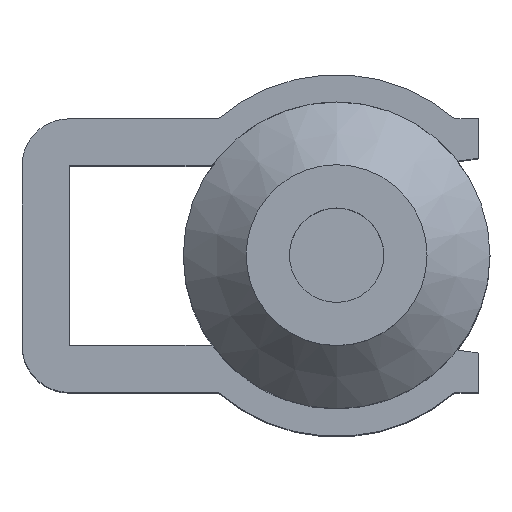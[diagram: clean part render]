
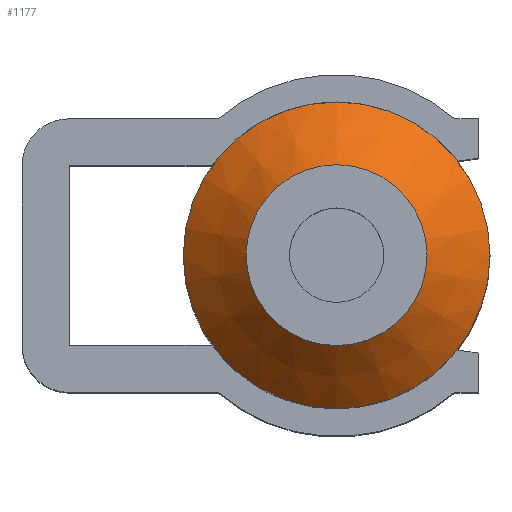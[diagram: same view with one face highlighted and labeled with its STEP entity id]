
A CAD part, top view. The second image highlights one B-rep face of the part: STEP entity #1177.
In plain terms, the highlighted conical face has half-angle 45 degrees and reference radius 7.75 mm.
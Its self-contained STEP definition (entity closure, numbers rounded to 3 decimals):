
#15=CONICAL_SURFACE('',#1300,7.75,0.785);
#113=FACE_OUTER_BOUND('',#177,.T.);
#177=EDGE_LOOP('',(#1038,#1039,#1040,#1041,#1042,#1043));
#294=LINE('',#1983,#403);
#403=VECTOR('',#1622,7.75);
#455=CIRCLE('',#1298,5.75);
#456=CIRCLE('',#1299,5.75);
#457=CIRCLE('',#1301,9.75);
#458=CIRCLE('',#1302,9.75);
#575=VERTEX_POINT('',#1974);
#576=VERTEX_POINT('',#1975);
#577=VERTEX_POINT('',#1979);
#578=VERTEX_POINT('',#1980);
#740=EDGE_CURVE('',#575,#576,#455,.T.);
#741=EDGE_CURVE('',#576,#575,#456,.T.);
#742=EDGE_CURVE('',#577,#578,#457,.T.);
#743=EDGE_CURVE('',#578,#577,#458,.T.);
#744=EDGE_CURVE('',#578,#576,#294,.T.);
#1038=ORIENTED_EDGE('',*,*,#742,.F.);
#1039=ORIENTED_EDGE('',*,*,#743,.F.);
#1040=ORIENTED_EDGE('',*,*,#744,.T.);
#1041=ORIENTED_EDGE('',*,*,#741,.T.);
#1042=ORIENTED_EDGE('',*,*,#740,.T.);
#1043=ORIENTED_EDGE('',*,*,#744,.F.);
#1177=ADVANCED_FACE('',(#113),#15,.T.);
#1298=AXIS2_PLACEMENT_3D('',#1976,#1612,#1613);
#1299=AXIS2_PLACEMENT_3D('',#1977,#1614,#1615);
#1300=AXIS2_PLACEMENT_3D('',#1978,#1616,#1617);
#1301=AXIS2_PLACEMENT_3D('',#1981,#1618,#1619);
#1302=AXIS2_PLACEMENT_3D('',#1982,#1620,#1621);
#1612=DIRECTION('center_axis',(0.,0.,-1.));
#1613=DIRECTION('ref_axis',(1.,0.,0.));
#1614=DIRECTION('center_axis',(0.,0.,-1.));
#1615=DIRECTION('ref_axis',(1.,0.,0.));
#1616=DIRECTION('center_axis',(0.,0.,-1.));
#1617=DIRECTION('ref_axis',(0.,1.,0.));
#1618=DIRECTION('center_axis',(0.,0.,-1.));
#1619=DIRECTION('ref_axis',(1.,0.,0.));
#1620=DIRECTION('center_axis',(0.,0.,-1.));
#1621=DIRECTION('ref_axis',(1.,0.,0.));
#1622=DIRECTION('',(0.,0.707,0.707));
#1974=CARTESIAN_POINT('',(0.,5.75,27.5));
#1975=CARTESIAN_POINT('',(0.,-5.75,27.5));
#1976=CARTESIAN_POINT('Origin',(0.,0.,27.5));
#1977=CARTESIAN_POINT('Origin',(0.,0.,27.5));
#1978=CARTESIAN_POINT('Origin',(0.,0.,25.5));
#1979=CARTESIAN_POINT('',(0.,9.75,23.5));
#1980=CARTESIAN_POINT('',(0.,-9.75,23.5));
#1981=CARTESIAN_POINT('Origin',(0.,0.,23.5));
#1982=CARTESIAN_POINT('Origin',(0.,0.,23.5));
#1983=CARTESIAN_POINT('',(0.,-7.75,25.5));
